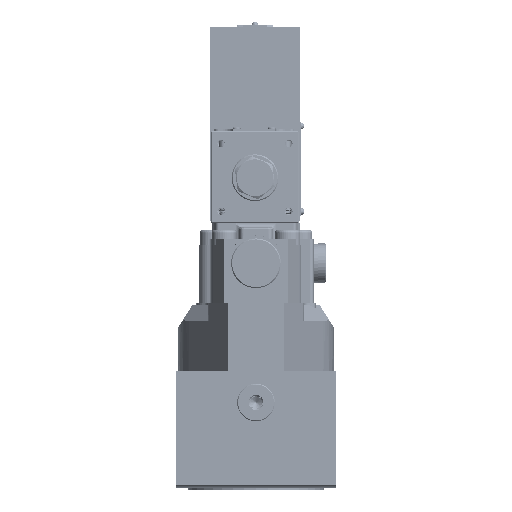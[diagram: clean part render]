
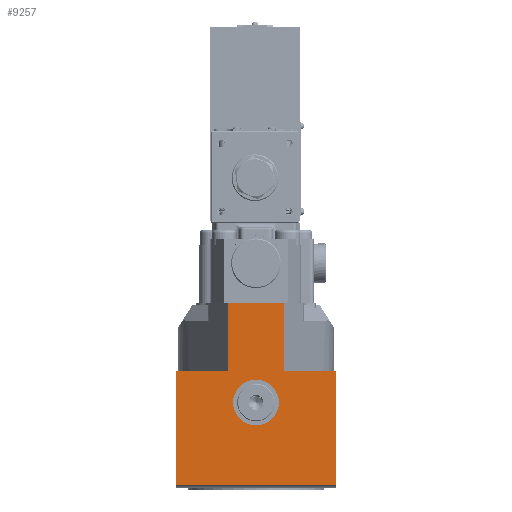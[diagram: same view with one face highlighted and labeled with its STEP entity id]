
A CAD part, left-side view. The second image highlights one B-rep face of the part: STEP entity #9257.
In plain terms, the highlighted planar face has unit normal (-1, 0, 0).
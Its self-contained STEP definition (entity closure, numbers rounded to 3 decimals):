
#3011=LINE('',#91073,#4277);
#3034=LINE('',#91134,#4300);
#3035=LINE('',#91137,#4301);
#3036=LINE('',#91138,#4302);
#3037=LINE('',#91140,#4303);
#3038=LINE('',#91142,#4304);
#3039=LINE('',#91144,#4305);
#3040=LINE('',#91146,#4306);
#4277=VECTOR('',#34527,1.);
#4300=VECTOR('',#34572,1.);
#4301=VECTOR('',#34573,1.);
#4302=VECTOR('',#34574,1.);
#4303=VECTOR('',#34575,1.);
#4304=VECTOR('',#34576,1.);
#4305=VECTOR('',#34577,1.);
#4306=VECTOR('',#34578,1.);
#9257=ADVANCED_FACE('',(#11877,#11878),#10983,.T.);
#10983=PLANE('',#30934);
#11877=FACE_BOUND('',#13606,.T.);
#11878=FACE_BOUND('',#13607,.T.);
#13606=EDGE_LOOP('',(#16863));
#13607=EDGE_LOOP('',(#16864,#16865,#16866,#16867,#16868,#16869,#16870,#16871));
#16863=ORIENTED_EDGE('',*,*,#26122,.F.);
#16864=ORIENTED_EDGE('',*,*,#26123,.F.);
#16865=ORIENTED_EDGE('',*,*,#26124,.T.);
#16866=ORIENTED_EDGE('',*,*,#26093,.F.);
#16867=ORIENTED_EDGE('',*,*,#26125,.T.);
#16868=ORIENTED_EDGE('',*,*,#26126,.F.);
#16869=ORIENTED_EDGE('',*,*,#26127,.F.);
#16870=ORIENTED_EDGE('',*,*,#26128,.T.);
#16871=ORIENTED_EDGE('',*,*,#26129,.F.);
#23398=VERTEX_POINT('',#91074);
#23399=VERTEX_POINT('',#91075);
#23424=VERTEX_POINT('',#91133);
#23425=VERTEX_POINT('',#91135);
#23426=VERTEX_POINT('',#91136);
#23427=VERTEX_POINT('',#91139);
#23428=VERTEX_POINT('',#91141);
#23429=VERTEX_POINT('',#91143);
#23430=VERTEX_POINT('',#91145);
#26093=EDGE_CURVE('',#23398,#23399,#3011,.T.);
#26122=EDGE_CURVE('',#23424,#23424,#29363,.T.);
#26123=EDGE_CURVE('',#23425,#23426,#3034,.T.);
#26124=EDGE_CURVE('',#23425,#23399,#3035,.T.);
#26125=EDGE_CURVE('',#23398,#23427,#3036,.T.);
#26126=EDGE_CURVE('',#23428,#23427,#3037,.T.);
#26127=EDGE_CURVE('',#23429,#23428,#3038,.T.);
#26128=EDGE_CURVE('',#23429,#23430,#3039,.T.);
#26129=EDGE_CURVE('',#23426,#23430,#3040,.T.);
#29363=CIRCLE('',#30933,11.5);
#30933=AXIS2_PLACEMENT_3D('',#91132,#34570,#34571);
#30934=AXIS2_PLACEMENT_3D('',#91147,#34579,#34580);
#34527=DIRECTION('',(0.,1.,0.));
#34570=DIRECTION('',(-1.,0.,0.));
#34571=DIRECTION('',(0.,0.,-1.));
#34572=DIRECTION('',(0.,-1.,0.));
#34573=DIRECTION('',(0.,0.,-1.));
#34574=DIRECTION('',(0.,0.,1.));
#34575=DIRECTION('',(0.,-1.,0.));
#34576=DIRECTION('',(0.,0.,-1.));
#34577=DIRECTION('',(0.,1.,0.));
#34578=DIRECTION('',(0.,0.,1.));
#34579=DIRECTION('',(-1.,0.,0.));
#34580=DIRECTION('',(0.,0.,-1.));
#91073=CARTESIAN_POINT('',(-745.26,136.121,-1.245));
#91074=CARTESIAN_POINT('',(-745.26,-96.932,-1.245));
#91075=CARTESIAN_POINT('',(-745.26,-16.932,-1.245));
#91132=CARTESIAN_POINT('',(-745.26,-56.932,40.));
#91133=CARTESIAN_POINT('',(-745.26,-56.932,28.5));
#91134=CARTESIAN_POINT('',(-745.26,-17.932,56.));
#91135=CARTESIAN_POINT('',(-745.26,-16.932,56.));
#91136=CARTESIAN_POINT('',(-745.26,-42.653,56.));
#91137=CARTESIAN_POINT('',(-745.26,-16.932,47.5));
#91138=CARTESIAN_POINT('',(-745.26,-96.932,47.5));
#91139=CARTESIAN_POINT('',(-745.26,-96.932,56.));
#91140=CARTESIAN_POINT('',(-745.26,-98.332,56.));
#91141=CARTESIAN_POINT('',(-745.26,-71.211,56.));
#91142=CARTESIAN_POINT('',(-745.26,-71.211,56.));
#91143=CARTESIAN_POINT('',(-745.26,-71.211,90.));
#91144=CARTESIAN_POINT('',(-745.26,-98.332,90.));
#91145=CARTESIAN_POINT('',(-745.26,-42.653,90.));
#91146=CARTESIAN_POINT('',(-745.26,-42.653,56.));
#91147=CARTESIAN_POINT('',(-745.26,-56.932,47.5));
